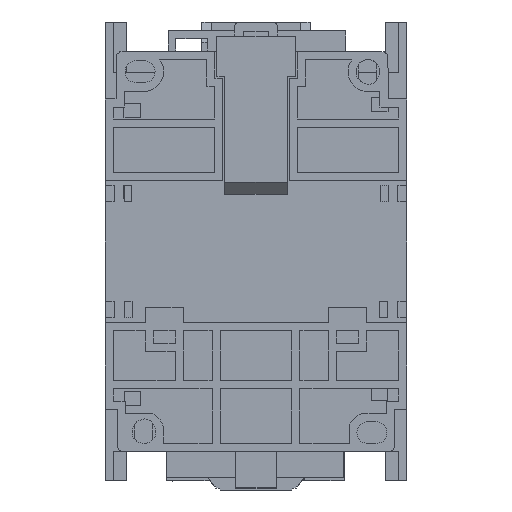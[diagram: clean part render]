
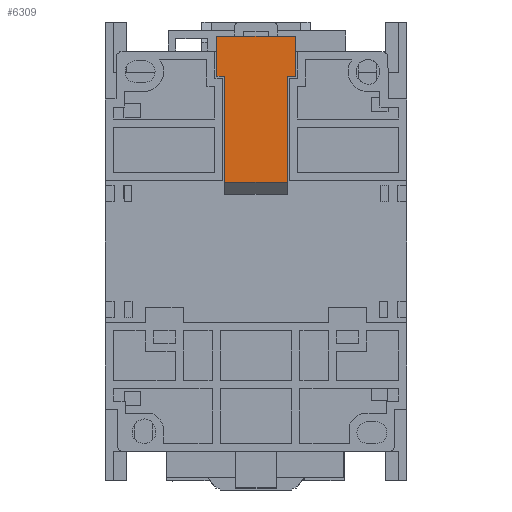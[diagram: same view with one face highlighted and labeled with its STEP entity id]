
A CAD part, front view. The second image highlights one B-rep face of the part: STEP entity #6309.
In plain terms, the highlighted planar face has unit normal (0, -1, 0).
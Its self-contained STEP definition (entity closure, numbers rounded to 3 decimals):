
#294 = ORIENTED_EDGE ( 'NONE', *, *, #28462, .F. ) ;
#718 = ORIENTED_EDGE ( 'NONE', *, *, #4729, .T. ) ;
#1151 = ORIENTED_EDGE ( 'NONE', *, *, #29569, .T. ) ;
#1248 = CARTESIAN_POINT ( 'NONE',  ( -7.8, 0., 53.85 ) ) ;
#3336 = VECTOR ( 'NONE', #29500, 1000. ) ;
#3421 = VERTEX_POINT ( 'NONE', #7502 ) ;
#3515 = DIRECTION ( 'NONE',  ( 0., 0., 1. ) ) ;
#3742 = DIRECTION ( 'NONE',  ( 0., 1., 0. ) ) ;
#4098 = CARTESIAN_POINT ( 'NONE',  ( -139.018, 0., -50. ) ) ;
#4729 = EDGE_CURVE ( 'NONE', #25032, #11767, #5476, .T. ) ;
#4854 = PLANE ( 'NONE',  #31293 ) ;
#5015 = CARTESIAN_POINT ( 'NONE',  ( -9.8, 0., 53.85 ) ) ;
#5253 = DIRECTION ( 'NONE',  ( 0., 0., -1. ) ) ;
#5476 = LINE ( 'NONE', #5015, #18767 ) ;
#5497 = VERTEX_POINT ( 'NONE', #30367 ) ;
#5846 = EDGE_CURVE ( 'NONE', #5497, #17155, #23656, .T. ) ;
#6309 = ADVANCED_FACE ( 'NONE', ( #30643 ), #4854, .F. ) ;
#6862 = CARTESIAN_POINT ( 'NONE',  ( 7.8, 0., 53.85 ) ) ;
#7130 = CARTESIAN_POINT ( 'NONE',  ( 7.8, 0., 43.85 ) ) ;
#7502 = CARTESIAN_POINT ( 'NONE',  ( -7.8, 0., 17.318 ) ) ;
#8005 = VERTEX_POINT ( 'NONE', #26685 ) ;
#8720 = LINE ( 'NONE', #7130, #21997 ) ;
#9292 = CARTESIAN_POINT ( 'NONE',  ( 7.8, 0., 17.318 ) ) ;
#9596 = LINE ( 'NONE', #1248, #14970 ) ;
#11767 = VERTEX_POINT ( 'NONE', #33804 ) ;
#12567 = DIRECTION ( 'NONE',  ( -1., 0., 0. ) ) ;
#13770 = VECTOR ( 'NONE', #17423, 1000. ) ;
#14255 = ORIENTED_EDGE ( 'NONE', *, *, #23628, .F. ) ;
#14699 = VERTEX_POINT ( 'NONE', #9292 ) ;
#14970 = VECTOR ( 'NONE', #22486, 1000. ) ;
#15247 = LINE ( 'NONE', #6862, #28491 ) ;
#15955 = ORIENTED_EDGE ( 'NONE', *, *, #32612, .T. ) ;
#16987 = DIRECTION ( 'NONE',  ( 1., 0., 0. ) ) ;
#17155 = VERTEX_POINT ( 'NONE', #19215 ) ;
#17235 = ORIENTED_EDGE ( 'NONE', *, *, #23183, .F. ) ;
#17423 = DIRECTION ( 'NONE',  ( -1., 0., 0. ) ) ;
#18767 = VECTOR ( 'NONE', #5253, 1000. ) ;
#19007 = CARTESIAN_POINT ( 'NONE',  ( -9.8, 0., 53.85 ) ) ;
#19215 = CARTESIAN_POINT ( 'NONE',  ( 9.8, 0., 53.85 ) ) ;
#20143 = CARTESIAN_POINT ( 'NONE',  ( 9.8, 0., 53.85 ) ) ;
#20237 = LINE ( 'NONE', #32758, #34214 ) ;
#20789 = LINE ( 'NONE', #20143, #27799 ) ;
#21997 = VECTOR ( 'NONE', #12567, 1000. ) ;
#22486 = DIRECTION ( 'NONE',  ( 0., 0., 1. ) ) ;
#23183 = EDGE_CURVE ( 'NONE', #3421, #28724, #9596, .T. ) ;
#23448 = ORIENTED_EDGE ( 'NONE', *, *, #5846, .T. ) ;
#23628 = EDGE_CURVE ( 'NONE', #5497, #8005, #8720, .T. ) ;
#23656 = LINE ( 'NONE', #29385, #3336 ) ;
#25032 = VERTEX_POINT ( 'NONE', #19007 ) ;
#25232 = DIRECTION ( 'NONE',  ( -1., 0., 0. ) ) ;
#25609 = EDGE_CURVE ( 'NONE', #8005, #14699, #15247, .T. ) ;
#26685 = CARTESIAN_POINT ( 'NONE',  ( 7.8, 0., 43.85 ) ) ;
#27799 = VECTOR ( 'NONE', #25232, 1000. ) ;
#27945 = ORIENTED_EDGE ( 'NONE', *, *, #25609, .F. ) ;
#28462 = EDGE_CURVE ( 'NONE', #28724, #11767, #28651, .T. ) ;
#28491 = VECTOR ( 'NONE', #33293, 1000. ) ;
#28651 = LINE ( 'NONE', #33188, #13770 ) ;
#28724 = VERTEX_POINT ( 'NONE', #28953 ) ;
#28953 = CARTESIAN_POINT ( 'NONE',  ( -7.8, 0., 43.85 ) ) ;
#29385 = CARTESIAN_POINT ( 'NONE',  ( 9.8, 0., 53.85 ) ) ;
#29500 = DIRECTION ( 'NONE',  ( 0., 0., 1. ) ) ;
#29569 = EDGE_CURVE ( 'NONE', #17155, #25032, #20789, .T. ) ;
#30367 = CARTESIAN_POINT ( 'NONE',  ( 9.8, 0., 43.85 ) ) ;
#30643 = FACE_OUTER_BOUND ( 'NONE', #34079, .T. ) ;
#31293 = AXIS2_PLACEMENT_3D ( 'NONE', #4098, #3742, #3515 ) ;
#32612 = EDGE_CURVE ( 'NONE', #3421, #14699, #20237, .T. ) ;
#32758 = CARTESIAN_POINT ( 'NONE',  ( -139.018, 0., 17.318 ) ) ;
#33188 = CARTESIAN_POINT ( 'NONE',  ( -7.8, 0., 43.85 ) ) ;
#33293 = DIRECTION ( 'NONE',  ( 0., 0., -1. ) ) ;
#33804 = CARTESIAN_POINT ( 'NONE',  ( -9.8, 0., 43.85 ) ) ;
#34079 = EDGE_LOOP ( 'NONE', ( #14255, #23448, #1151, #718, #294, #17235, #15955, #27945 ) ) ;
#34214 = VECTOR ( 'NONE', #16987, 1000. ) ;
